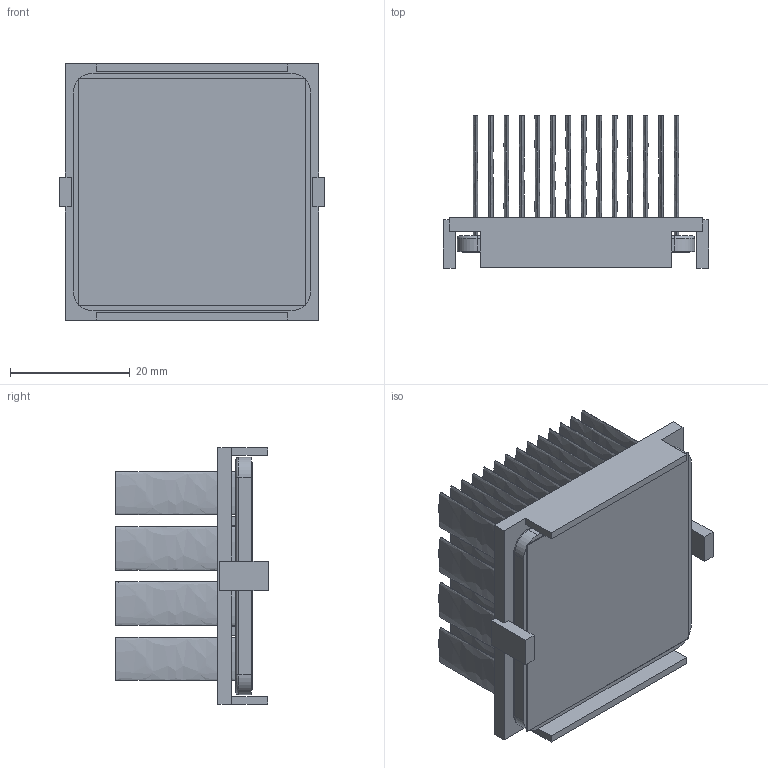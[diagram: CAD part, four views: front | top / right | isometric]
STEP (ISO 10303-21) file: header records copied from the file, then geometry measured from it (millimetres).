
FILE_DESCRIPTION (( 'STEP AP214' ), '1' );
FILE_NAME ('INM40001-23W-2.6K30.STEP', '2023-02-21T17:42:27', ( '' ), ( '' ), 'SwSTEP 2.0', 'SolidWorks 2020', '' );
FILE_SCHEMA (( 'AUTOMOTIVE_DESIGN' ));
Length unit declared in the file: inch
Products named in the file (1): INM40001-23W-2.6K30
Bounding box: 44.2 x 25.4 x 42.7 mm (x, y, z)
Volume: 11330.6 mm3; surface area: 25854.7 mm2
Topology: 3 solids, 3 shells, 246 faces, 544 edges, 360 vertices
Faces by surface type: plane 122, bspline 112, cylinder 8, torus 4
Entity records: 10244 total; most frequent: CARTESIAN_POINT 2607, ORIENTED_EDGE 1088, DIRECTION 610, EDGE_CURVE 544, VERTEX_POINT 360, EDGE_LOOP 304, LINE 300, VECTOR 300
